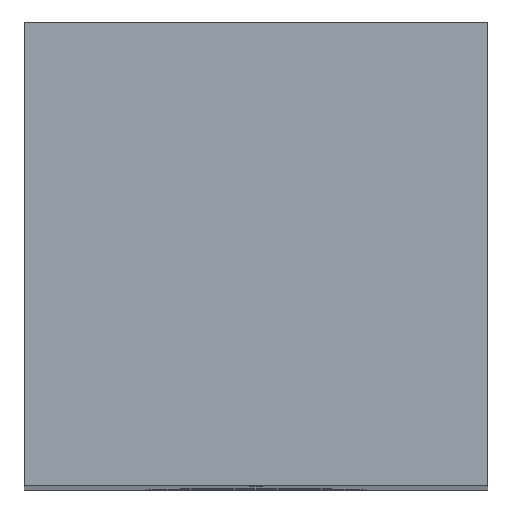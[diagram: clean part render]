
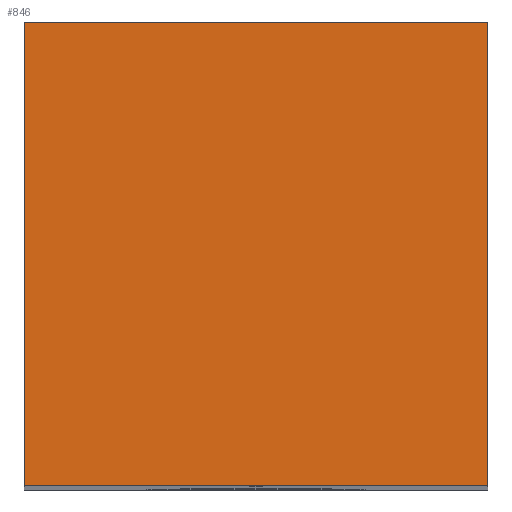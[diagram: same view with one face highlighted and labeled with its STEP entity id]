
A CAD part, top view. The second image highlights one B-rep face of the part: STEP entity #846.
In plain terms, the highlighted planar face has unit normal (0, 0, 1).
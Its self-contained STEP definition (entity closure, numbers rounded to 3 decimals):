
#8 = LINE ( 'NONE', #368, #38 ) ;
#9 = DIRECTION ( 'NONE',  ( -1., 0., 0. ) ) ;
#29 = VECTOR ( 'NONE', #153, 1000. ) ;
#38 = VECTOR ( 'NONE', #9, 1000. ) ;
#58 = EDGE_CURVE ( 'NONE', #326, #613, #844, .T. ) ;
#82 = LINE ( 'NONE', #578, #29 ) ;
#153 = DIRECTION ( 'NONE',  ( 0., 1., 0. ) ) ;
#213 = CARTESIAN_POINT ( 'NONE',  ( 3.5, 3.5, 0. ) ) ;
#214 = CARTESIAN_POINT ( 'NONE',  ( -3.5, 3.5, 0. ) ) ;
#226 = DIRECTION ( 'NONE',  ( 1., 0., 0. ) ) ;
#227 = FACE_OUTER_BOUND ( 'NONE', #377, .T. ) ;
#243 = VECTOR ( 'NONE', #401, 1000. ) ;
#263 = VERTEX_POINT ( 'NONE', #307 ) ;
#307 = CARTESIAN_POINT ( 'NONE',  ( -3.5, 3.5, 0. ) ) ;
#308 = EDGE_CURVE ( 'NONE', #328, #263, #8, .T. ) ;
#326 = VERTEX_POINT ( 'NONE', #601 ) ;
#328 = VERTEX_POINT ( 'NONE', #213 ) ;
#333 = EDGE_CURVE ( 'NONE', #613, #328, #82, .T. ) ;
#363 = AXIS2_PLACEMENT_3D ( 'NONE', #214, #816, #226 ) ;
#368 = CARTESIAN_POINT ( 'NONE',  ( 3.5, 3.5, 0. ) ) ;
#377 = EDGE_LOOP ( 'NONE', ( #715, #775, #785, #840 ) ) ;
#401 = DIRECTION ( 'NONE',  ( 1., 0., 0. ) ) ;
#495 = CARTESIAN_POINT ( 'NONE',  ( -3.5, -3.5, 0. ) ) ;
#538 = VECTOR ( 'NONE', #618, 1000. ) ;
#578 = CARTESIAN_POINT ( 'NONE',  ( 3.5, -3.5, 0. ) ) ;
#601 = CARTESIAN_POINT ( 'NONE',  ( -3.5, -3.5, 0. ) ) ;
#602 = LINE ( 'NONE', #495, #538 ) ;
#613 = VERTEX_POINT ( 'NONE', #630 ) ;
#618 = DIRECTION ( 'NONE',  ( 0., -1., 0. ) ) ;
#630 = CARTESIAN_POINT ( 'NONE',  ( 3.5, -3.5, 0. ) ) ;
#631 = CARTESIAN_POINT ( 'NONE',  ( 3.5, -3.5, 0. ) ) ;
#688 = PLANE ( 'NONE',  #363 ) ;
#715 = ORIENTED_EDGE ( 'NONE', *, *, #810, .T. ) ;
#775 = ORIENTED_EDGE ( 'NONE', *, *, #58, .T. ) ;
#785 = ORIENTED_EDGE ( 'NONE', *, *, #333, .T. ) ;
#810 = EDGE_CURVE ( 'NONE', #263, #326, #602, .T. ) ;
#816 = DIRECTION ( 'NONE',  ( 0., 0., 1. ) ) ;
#840 = ORIENTED_EDGE ( 'NONE', *, *, #308, .T. ) ;
#844 = LINE ( 'NONE', #631, #243 ) ;
#846 = ADVANCED_FACE ( 'NONE', ( #227 ), #688, .T. ) ;
